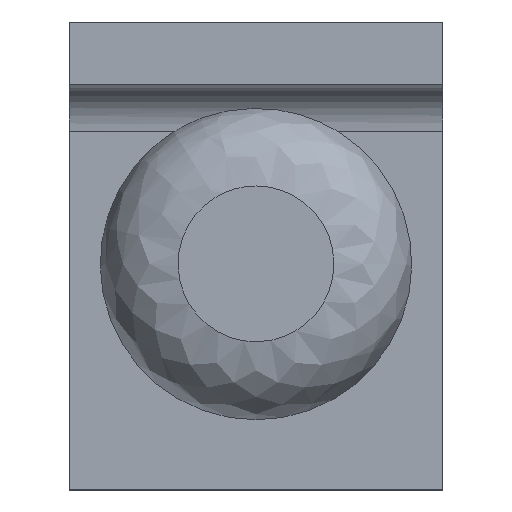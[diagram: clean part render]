
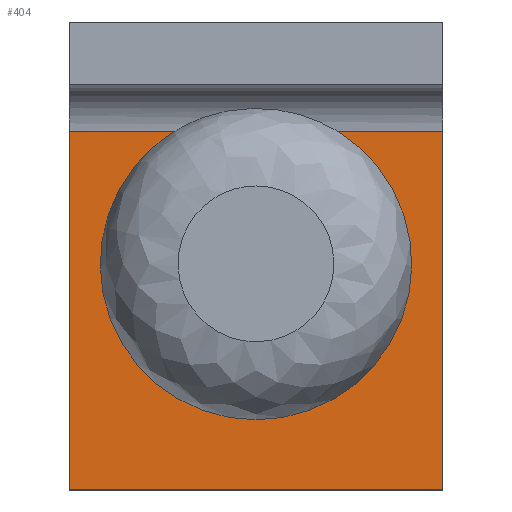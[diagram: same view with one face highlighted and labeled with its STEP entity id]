
A CAD part, top view. The second image highlights one B-rep face of the part: STEP entity #404.
In plain terms, the highlighted planar face has unit normal (0, 0, 1).
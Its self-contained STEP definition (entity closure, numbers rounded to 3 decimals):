
#316=CARTESIAN_POINT('',(-5.268,8.5,6.57));
#317=VERTEX_POINT('',#316);
#318=CARTESIAN_POINT('',(5.268,8.5,6.57));
#319=VERTEX_POINT('',#318);
#320=CARTESIAN_POINT('',(0.0,0.0,6.57));
#321=DIRECTION('',(0.0,0.0,1.0));
#322=DIRECTION('',(0.0,1.0,0.0));
#323=AXIS2_PLACEMENT_3D('',#320,#321,#322);
#324=CIRCLE('',#323,10.0);
#325=EDGE_CURVE('',#317,#319,#324,.T.);
#358=CARTESIAN_POINT('',(12.,8.5,6.57));
#359=DIRECTION('',(0.0,0.0,1.0));
#360=DIRECTION('',(1.0,0.0,0.0));
#361=AXIS2_PLACEMENT_3D('',#358,#359,#360);
#362=PLANE('',#361);
#363=ORIENTED_EDGE('',*,*,#325,.F.);
#364=CARTESIAN_POINT('',(-12.,8.5,6.57));
#365=VERTEX_POINT('',#364);
#366=CARTESIAN_POINT('',(-5.268,8.5,6.57));
#367=DIRECTION('',(-1.0,0.0,0.0));
#368=VECTOR('',#367,6.732);
#369=LINE('',#366,#368);
#370=EDGE_CURVE('',#317,#365,#369,.T.);
#371=ORIENTED_EDGE('',*,*,#370,.T.);
#372=CARTESIAN_POINT('',(-12.,-14.5,6.57));
#373=VERTEX_POINT('',#372);
#374=CARTESIAN_POINT('',(-12.,8.5,6.57));
#375=DIRECTION('',(0.0,-1.0,0.0));
#376=VECTOR('',#375,23.0);
#377=LINE('',#374,#376);
#378=EDGE_CURVE('',#365,#373,#377,.T.);
#379=ORIENTED_EDGE('',*,*,#378,.T.);
#380=CARTESIAN_POINT('',(12.,-14.5,6.57));
#381=VERTEX_POINT('',#380);
#382=CARTESIAN_POINT('',(12.,-14.5,6.57));
#383=DIRECTION('',(-1.0,0.0,0.0));
#384=VECTOR('',#383,24.);
#385=LINE('',#382,#384);
#386=EDGE_CURVE('',#381,#373,#385,.T.);
#387=ORIENTED_EDGE('',*,*,#386,.F.);
#388=CARTESIAN_POINT('',(12.,8.5,6.57));
#389=VERTEX_POINT('',#388);
#390=CARTESIAN_POINT('',(12.,8.5,6.57));
#391=DIRECTION('',(0.0,-1.0,0.0));
#392=VECTOR('',#391,23.0);
#393=LINE('',#390,#392);
#394=EDGE_CURVE('',#389,#381,#393,.T.);
#395=ORIENTED_EDGE('',*,*,#394,.F.);
#396=CARTESIAN_POINT('',(12.,8.5,6.57));
#397=DIRECTION('',(-1.0,0.0,0.0));
#398=VECTOR('',#397,6.732);
#399=LINE('',#396,#398);
#400=EDGE_CURVE('',#389,#319,#399,.T.);
#401=ORIENTED_EDGE('',*,*,#400,.T.);
#402=EDGE_LOOP('',(#363,#371,#379,#387,#395,#401));
#403=FACE_OUTER_BOUND('',#402,.T.);
#404=ADVANCED_FACE('',(#403),#362,.T.);
